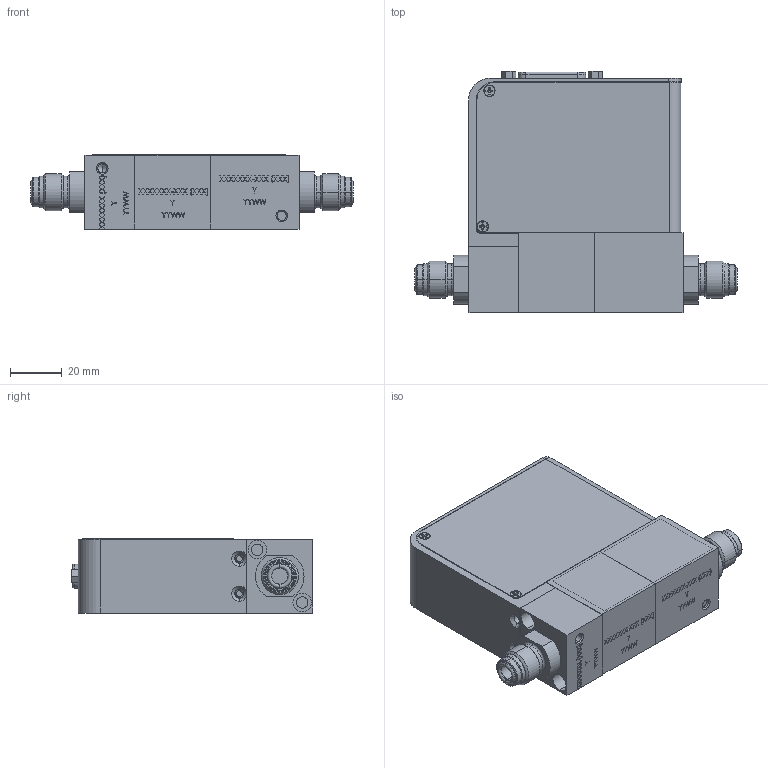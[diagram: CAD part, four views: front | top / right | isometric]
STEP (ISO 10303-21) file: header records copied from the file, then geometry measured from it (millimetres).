
FILE_DESCRIPTION (( 'STEP AP203' ), '1' );
FILE_NAME ('GF120XHT-VS.STEP', '2023-11-30T12:33:15', ( '' ), ( '' ), 'SwSTEP 2.0', 'SolidWorks 2020', '' );
FILE_SCHEMA (( 'CONFIG_CONTROL_DESIGN' ));
Products named in the file (1): GF120XHT-VS
Bounding box: 124.02 x 92.91 x 28.52 mm (x, y, z)
Volume: 99619.1 mm3; surface area: 76519.4 mm2
Topology: 17 solids, 17 shells, 1683 faces, 4531 edges, 2988 vertices
Faces by surface type: plane 1018, cylinder 333, cone 186, bspline 85, torus 61
Entity records: 64118 total; most frequent: CARTESIAN_POINT 22623, ORIENTED_EDGE 9014, DIRECTION 7925, EDGE_CURVE 4507, VERTEX_POINT 2988, VECTOR 2911, LINE 2911, AXIS2_PLACEMENT_3D 2507
